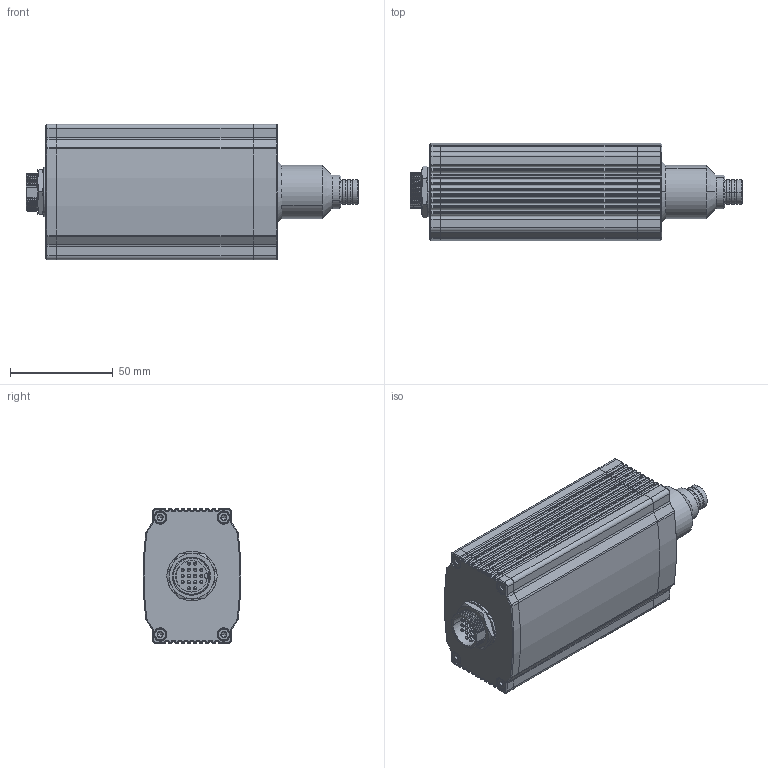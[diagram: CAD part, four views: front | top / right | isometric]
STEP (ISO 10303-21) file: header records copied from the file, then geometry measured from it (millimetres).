
FILE_DESCRIPTION((''),'2;1');
FILE_NAME('FI1010DC-HE_4_0_','2025-12-25T16:38:11',('Admin'),(''),'CREO PARAMETRIC BY PTC INC, 2020074','CREO PARAMETRIC BY PTC INC, 2020074','');
FILE_SCHEMA(('CONFIG_CONTROL_DESIGN'));
Length unit declared in the file: millimetre
Products named in the file (1): FI1010DC-HE_4_0_
Bounding box: 161.82 x 47.68 x 66 mm (x, y, z)
Volume: 63348.2 mm3; surface area: 96318.2 mm2
Topology: 35 solids, 44 shells, 1573 faces, 4131 edges, 2477 vertices
Faces by surface type: cylinder 572, plane 405, cone 390, sphere 86, torus 75, bspline 45
Entity records: 82022 total; most frequent: CARTESIAN_POINT 44301, DIRECTION 8117, ORIENTED_EDGE 7784, EDGE_CURVE 3899, AXIS2_PLACEMENT_3D 3267, VERTEX_POINT 2477, CIRCLE 1738, EDGE_LOOP 1709
